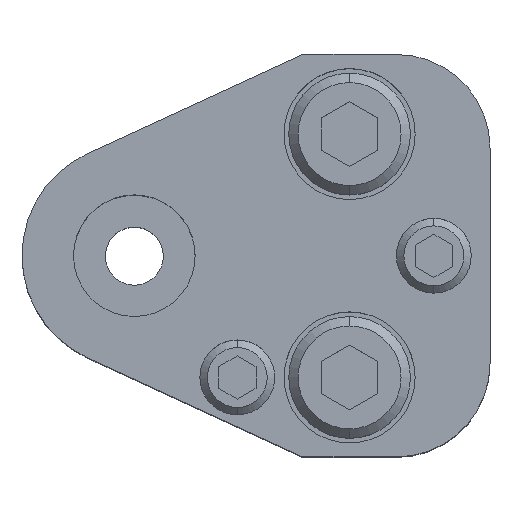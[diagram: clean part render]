
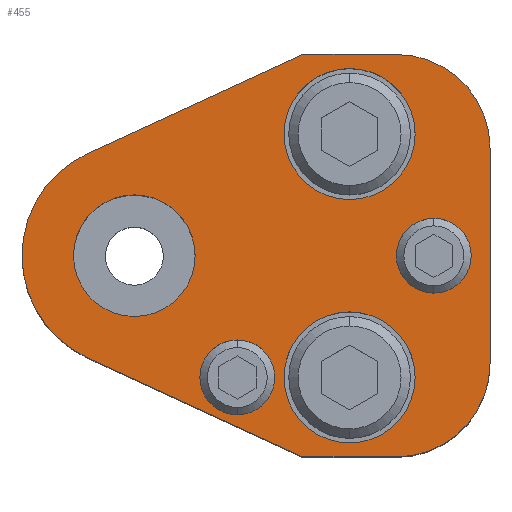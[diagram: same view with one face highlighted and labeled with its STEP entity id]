
A CAD part, top view. The second image highlights one B-rep face of the part: STEP entity #455.
In plain terms, the highlighted planar face has unit normal (0, 0, 1).
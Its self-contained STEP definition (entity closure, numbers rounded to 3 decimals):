
#211=FACE_BOUND('',#817,.T.);
#212=FACE_BOUND('',#818,.T.);
#213=FACE_BOUND('',#819,.T.);
#214=FACE_BOUND('',#820,.T.);
#215=FACE_BOUND('',#821,.T.);
#216=FACE_BOUND('',#822,.T.);
#274=CIRCLE('',#2649,10.);
#276=CIRCLE('',#2653,10.);
#278=CIRCLE('',#2658,12.);
#287=CIRCLE('',#2672,7.);
#289=CIRCLE('',#2675,7.);
#291=CIRCLE('',#2679,7.);
#293=CIRCLE('',#2682,7.);
#295=CIRCLE('',#2686,4.);
#296=CIRCLE('',#2687,4.);
#297=CIRCLE('',#2688,4.);
#298=CIRCLE('',#2689,4.);
#299=CIRCLE('',#2690,6.5);
#300=CIRCLE('',#2691,6.5);
#455=ADVANCED_FACE('',(#211,#212,#213,#214,#215,#216),#587,.T.);
#587=PLANE('',#2692);
#817=EDGE_LOOP('',(#1155,#1156,#1157,#1158,#1159,#1160,#1161,#1162));
#818=EDGE_LOOP('',(#1163,#1164));
#819=EDGE_LOOP('',(#1165,#1166));
#820=EDGE_LOOP('',(#1167,#1168));
#821=EDGE_LOOP('',(#1169,#1170));
#822=EDGE_LOOP('',(#1171,#1172));
#1155=ORIENTED_EDGE('',*,*,#1935,.T.);
#1156=ORIENTED_EDGE('',*,*,#1956,.T.);
#1157=ORIENTED_EDGE('',*,*,#1953,.T.);
#1158=ORIENTED_EDGE('',*,*,#1950,.T.);
#1159=ORIENTED_EDGE('',*,*,#1947,.T.);
#1160=ORIENTED_EDGE('',*,*,#1944,.T.);
#1161=ORIENTED_EDGE('',*,*,#1941,.T.);
#1162=ORIENTED_EDGE('',*,*,#1938,.T.);
#1163=ORIENTED_EDGE('',*,*,#1981,.F.);
#1164=ORIENTED_EDGE('',*,*,#1982,.F.);
#1165=ORIENTED_EDGE('',*,*,#1983,.F.);
#1166=ORIENTED_EDGE('',*,*,#1984,.F.);
#1167=ORIENTED_EDGE('',*,*,#1979,.F.);
#1168=ORIENTED_EDGE('',*,*,#1975,.F.);
#1169=ORIENTED_EDGE('',*,*,#1973,.F.);
#1170=ORIENTED_EDGE('',*,*,#1969,.F.);
#1171=ORIENTED_EDGE('',*,*,#1985,.T.);
#1172=ORIENTED_EDGE('',*,*,#1986,.T.);
#1689=VERTEX_POINT('',#3848);
#1690=VERTEX_POINT('',#3850);
#1692=VERTEX_POINT('',#3856);
#1694=VERTEX_POINT('',#3862);
#1696=VERTEX_POINT('',#3868);
#1698=VERTEX_POINT('',#3874);
#1700=VERTEX_POINT('',#3880);
#1702=VERTEX_POINT('',#3886);
#1711=VERTEX_POINT('',#3917);
#1712=VERTEX_POINT('',#3918);
#1715=VERTEX_POINT('',#3930);
#1716=VERTEX_POINT('',#3931);
#1719=VERTEX_POINT('',#3943);
#1720=VERTEX_POINT('',#3944);
#1721=VERTEX_POINT('',#3947);
#1722=VERTEX_POINT('',#3948);
#1723=VERTEX_POINT('',#3951);
#1724=VERTEX_POINT('',#3952);
#1935=EDGE_CURVE('',#1690,#1689,#2265,.T.);
#1938=EDGE_CURVE('',#1692,#1690,#2268,.T.);
#1941=EDGE_CURVE('',#1694,#1692,#274,.T.);
#1944=EDGE_CURVE('',#1696,#1694,#2272,.T.);
#1947=EDGE_CURVE('',#1698,#1696,#276,.T.);
#1950=EDGE_CURVE('',#1700,#1698,#2276,.T.);
#1953=EDGE_CURVE('',#1702,#1700,#2279,.T.);
#1956=EDGE_CURVE('',#1689,#1702,#278,.T.);
#1969=EDGE_CURVE('',#1711,#1712,#287,.T.);
#1973=EDGE_CURVE('',#1712,#1711,#289,.T.);
#1975=EDGE_CURVE('',#1715,#1716,#291,.T.);
#1979=EDGE_CURVE('',#1716,#1715,#293,.T.);
#1981=EDGE_CURVE('',#1719,#1720,#295,.T.);
#1982=EDGE_CURVE('',#1720,#1719,#296,.T.);
#1983=EDGE_CURVE('',#1721,#1722,#297,.T.);
#1984=EDGE_CURVE('',#1722,#1721,#298,.T.);
#1985=EDGE_CURVE('',#1723,#1724,#299,.T.);
#1986=EDGE_CURVE('',#1724,#1723,#300,.T.);
#2265=LINE('',#3849,#2457);
#2268=LINE('',#3855,#2460);
#2272=LINE('',#3867,#2464);
#2276=LINE('',#3879,#2468);
#2279=LINE('',#3885,#2471);
#2457=VECTOR('',#3049,1.);
#2460=VECTOR('',#3054,1.);
#2464=VECTOR('',#3066,1.);
#2468=VECTOR('',#3078,1.);
#2471=VECTOR('',#3083,1.);
#2649=AXIS2_PLACEMENT_3D('',#3861,#3060,#3061);
#2653=AXIS2_PLACEMENT_3D('',#3873,#3072,#3073);
#2658=AXIS2_PLACEMENT_3D('',#3890,#3089,#3090);
#2672=AXIS2_PLACEMENT_3D('',#3916,#3121,#3122);
#2675=AXIS2_PLACEMENT_3D('',#3925,#3129,#3130);
#2679=AXIS2_PLACEMENT_3D('',#3929,#3137,#3138);
#2682=AXIS2_PLACEMENT_3D('',#3938,#3145,#3146);
#2686=AXIS2_PLACEMENT_3D('',#3942,#3153,#3154);
#2687=AXIS2_PLACEMENT_3D('',#3945,#3155,#3156);
#2688=AXIS2_PLACEMENT_3D('',#3946,#3157,#3158);
#2689=AXIS2_PLACEMENT_3D('',#3949,#3159,#3160);
#2690=AXIS2_PLACEMENT_3D('',#3950,#3161,#3162);
#2691=AXIS2_PLACEMENT_3D('',#3953,#3163,#3164);
#2692=AXIS2_PLACEMENT_3D('',#3954,#3165,#3166);
#3049=DIRECTION('',(-0.908,-0.418,0.));
#3054=DIRECTION('',(-1.,0.,0.));
#3060=DIRECTION('',(0.,0.,1.));
#3061=DIRECTION('',(-0.707,-0.707,0.));
#3066=DIRECTION('',(0.,1.,0.));
#3072=DIRECTION('',(0.,0.,1.));
#3073=DIRECTION('',(-0.707,0.707,0.));
#3078=DIRECTION('',(1.,0.,0.));
#3083=DIRECTION('',(0.908,-0.418,0.));
#3089=DIRECTION('',(0.,0.,1.));
#3090=DIRECTION('',(1.,0.,0.));
#3121=DIRECTION('',(0.,0.,1.));
#3122=DIRECTION('',(-1.,0.,0.));
#3129=DIRECTION('',(0.,0.,1.));
#3130=DIRECTION('',(1.,0.,0.));
#3137=DIRECTION('',(0.,0.,1.));
#3138=DIRECTION('',(-1.,0.,0.));
#3145=DIRECTION('',(0.,0.,1.));
#3146=DIRECTION('',(1.,0.,0.));
#3153=DIRECTION('',(0.,0.,1.));
#3154=DIRECTION('',(1.,0.,0.));
#3155=DIRECTION('',(0.,0.,1.));
#3156=DIRECTION('',(-1.,0.,0.));
#3157=DIRECTION('',(0.,0.,1.));
#3158=DIRECTION('',(1.,0.,0.));
#3159=DIRECTION('',(0.,0.,1.));
#3160=DIRECTION('',(-1.,0.,0.));
#3161=DIRECTION('',(0.,0.,-1.));
#3162=DIRECTION('',(-1.,0.,0.));
#3163=DIRECTION('',(0.,0.,-1.));
#3164=DIRECTION('',(1.,0.,0.));
#3165=DIRECTION('',(0.,0.,1.));
#3166=DIRECTION('',(1.,0.,0.));
#3848=CARTESIAN_POINT('',(-5.019,10.9,35.));
#3849=CARTESIAN_POINT('',(18.,21.5,35.));
#3850=CARTESIAN_POINT('',(18.,21.5,35.));
#3855=CARTESIAN_POINT('',(28.,21.5,35.));
#3856=CARTESIAN_POINT('',(28.,21.5,35.));
#3861=CARTESIAN_POINT('',(28.,11.5,35.));
#3862=CARTESIAN_POINT('',(38.,11.5,35.));
#3867=CARTESIAN_POINT('',(38.,11.5,35.));
#3868=CARTESIAN_POINT('',(38.,-11.5,35.));
#3873=CARTESIAN_POINT('',(28.,-11.5,35.));
#3874=CARTESIAN_POINT('',(28.,-21.5,35.));
#3879=CARTESIAN_POINT('',(28.,-21.5,35.));
#3880=CARTESIAN_POINT('',(18.,-21.5,35.));
#3885=CARTESIAN_POINT('',(18.,-21.5,35.));
#3886=CARTESIAN_POINT('',(-5.019,-10.9,35.));
#3890=CARTESIAN_POINT('',(0.,0.,35.));
#3916=CARTESIAN_POINT('',(23.,13.,35.));
#3917=CARTESIAN_POINT('',(23.,6.,35.));
#3918=CARTESIAN_POINT('',(23.,20.,35.));
#3925=CARTESIAN_POINT('',(23.,13.,35.));
#3929=CARTESIAN_POINT('',(23.,-13.,35.));
#3930=CARTESIAN_POINT('',(23.,-20.,35.));
#3931=CARTESIAN_POINT('',(23.,-6.,35.));
#3938=CARTESIAN_POINT('',(23.,-13.,35.));
#3942=CARTESIAN_POINT('',(11.,-13.,35.));
#3943=CARTESIAN_POINT('',(11.,-9.,35.));
#3944=CARTESIAN_POINT('',(11.,-17.,35.));
#3945=CARTESIAN_POINT('',(11.,-13.,35.));
#3946=CARTESIAN_POINT('',(32.,0.,35.));
#3947=CARTESIAN_POINT('',(32.,4.,35.));
#3948=CARTESIAN_POINT('',(32.,-4.,35.));
#3949=CARTESIAN_POINT('',(32.,0.,35.));
#3950=CARTESIAN_POINT('',(0.,0.,35.));
#3951=CARTESIAN_POINT('',(0.,6.5,35.));
#3952=CARTESIAN_POINT('',(0.,-6.5,35.));
#3953=CARTESIAN_POINT('',(0.,0.,35.));
#3954=CARTESIAN_POINT('',(18.,21.5,35.));
